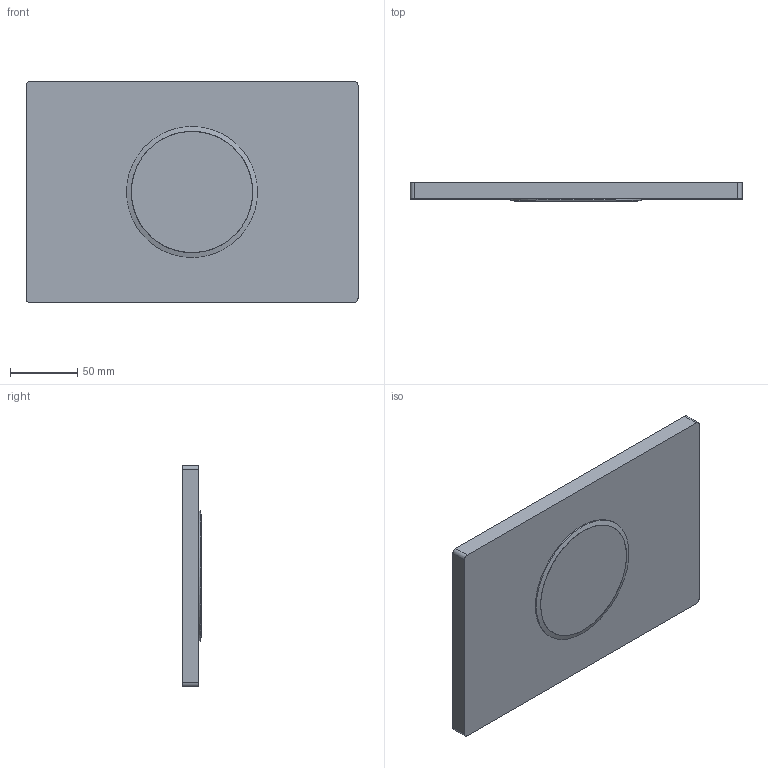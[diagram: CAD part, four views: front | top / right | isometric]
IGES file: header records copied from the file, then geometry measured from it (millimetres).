
Global section: file name: 115907; native system: Autodesk Inventor 2018; preprocessor: unknown; author: JANAN; date: 20211008.094425; units: millimetre
Bounding box: 246 x 13.93 x 164 mm (x, y, z)
Volume: 446265.2 mm3; surface area: 100233.2 mm2
Topology: 2 solids, 2 shells, 22 faces, 50 edges, 35 vertices
Faces by surface type: bspline 22
